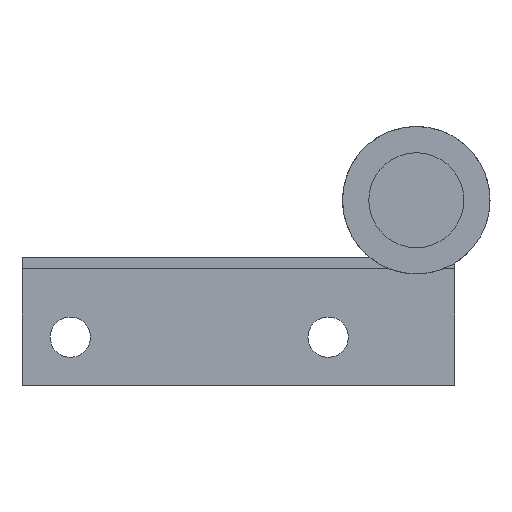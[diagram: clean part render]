
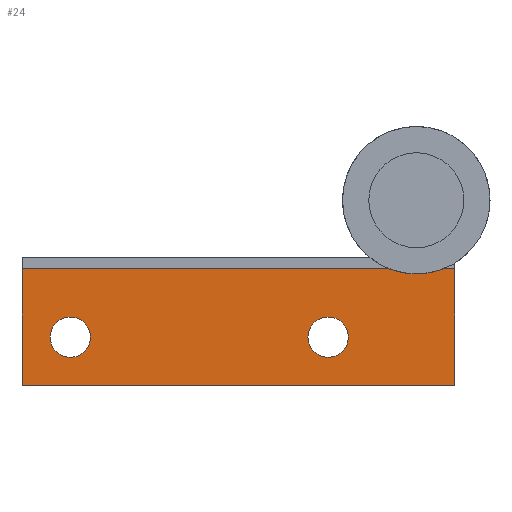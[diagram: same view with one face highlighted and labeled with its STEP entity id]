
A CAD part, front view. The second image highlights one B-rep face of the part: STEP entity #24.
In plain terms, the highlighted planar face has unit normal (0, -1, 0).
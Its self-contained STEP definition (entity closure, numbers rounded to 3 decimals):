
#24 = ADVANCED_FACE ( 'NONE', ( #919, #921, #1063 ), #330, .F. ) ;
#54 = AXIS2_PLACEMENT_3D ( 'NONE', #428, #435, #436 ) ;
#58 = AXIS2_PLACEMENT_3D ( 'NONE', #331, #332, #333 ) ;
#59 = EDGE_CURVE ( 'NONE', #238, #233, #874, .T. ) ;
#88 = EDGE_CURVE ( 'NONE', #208, #213, #731, .T. ) ;
#98 = AXIS2_PLACEMENT_3D ( 'NONE', #581, #572, #574 ) ;
#127 = EDGE_CURVE ( 'NONE', #209, #212, #814, .T. ) ;
#134 = AXIS2_PLACEMENT_3D ( 'NONE', #376, #385, #386 ) ;
#142 = AXIS2_PLACEMENT_3D ( 'NONE', #389, #395, #396 ) ;
#163 = EDGE_CURVE ( 'NONE', #245, #241, #730, .T. ) ;
#171 = EDGE_CURVE ( 'NONE', #233, #238, #696, .T. ) ;
#175 = EDGE_CURVE ( 'NONE', #212, #213, #988, .T. ) ;
#189 = EDGE_CURVE ( 'NONE', #241, #245, #670, .T. ) ;
#195 = EDGE_CURVE ( 'NONE', #209, #208, #678, .T. ) ;
#208 = VERTEX_POINT ( 'NONE', #434 ) ;
#209 = VERTEX_POINT ( 'NONE', #447 ) ;
#212 = VERTEX_POINT ( 'NONE', #449 ) ;
#213 = VERTEX_POINT ( 'NONE', #450 ) ;
#233 = VERTEX_POINT ( 'NONE', #469 ) ;
#238 = VERTEX_POINT ( 'NONE', #474 ) ;
#241 = VERTEX_POINT ( 'NONE', #477 ) ;
#245 = VERTEX_POINT ( 'NONE', #481 ) ;
#330 = PLANE ( 'NONE',  #58 ) ;
#331 = CARTESIAN_POINT ( 'NONE',  ( 9.15, 423.2, -23. ) ) ;
#332 = DIRECTION ( 'NONE',  ( 0., 1., 0. ) ) ;
#333 = DIRECTION ( 'NONE',  ( 1., 0., 0. ) ) ;
#376 = CARTESIAN_POINT ( 'NONE',  ( -42.95, 423.2, -17. ) ) ;
#385 = DIRECTION ( 'NONE',  ( 0., 1., 0. ) ) ;
#386 = DIRECTION ( 'NONE',  ( 1., 0., 0. ) ) ;
#389 = CARTESIAN_POINT ( 'NONE',  ( -10.95, 423.2, -17. ) ) ;
#395 = DIRECTION ( 'NONE',  ( 0., 1., 0. ) ) ;
#396 = DIRECTION ( 'NONE',  ( 1., 0., 0. ) ) ;
#401 = CARTESIAN_POINT ( 'NONE',  ( -48.95, 423.2, -23. ) ) ;
#404 = DIRECTION ( 'NONE',  ( 0., 0., -1. ) ) ;
#428 = CARTESIAN_POINT ( 'NONE',  ( -42.95, 423.2, -17. ) ) ;
#434 = CARTESIAN_POINT ( 'NONE',  ( 4.75, 423.2, -23. ) ) ;
#435 = DIRECTION ( 'NONE',  ( 0., 1., 0. ) ) ;
#436 = DIRECTION ( 'NONE',  ( 1., 0., 0. ) ) ;
#445 = CARTESIAN_POINT ( 'NONE',  ( 4.75, 423.2, -23. ) ) ;
#446 = DIRECTION ( 'NONE',  ( 0., 0., -1. ) ) ;
#447 = CARTESIAN_POINT ( 'NONE',  ( 4.75, 423.2, -8.5 ) ) ;
#449 = CARTESIAN_POINT ( 'NONE',  ( -48.95, 423.2, -8.5 ) ) ;
#450 = CARTESIAN_POINT ( 'NONE',  ( -48.95, 423.2, -23. ) ) ;
#469 = CARTESIAN_POINT ( 'NONE',  ( -13.45, 423.2, -17. ) ) ;
#474 = CARTESIAN_POINT ( 'NONE',  ( -8.45, 423.2, -17. ) ) ;
#477 = CARTESIAN_POINT ( 'NONE',  ( -45.45, 423.2, -17. ) ) ;
#481 = CARTESIAN_POINT ( 'NONE',  ( -40.45, 423.2, -17. ) ) ;
#519 = DIRECTION ( 'NONE',  ( -1., 0., 0. ) ) ;
#572 = DIRECTION ( 'NONE',  ( 0., 1., 0. ) ) ;
#574 = DIRECTION ( 'NONE',  ( 1., 0., 0. ) ) ;
#581 = CARTESIAN_POINT ( 'NONE',  ( -10.95, 423.2, -17. ) ) ;
#597 = DIRECTION ( 'NONE',  ( -1., 0., 0. ) ) ;
#604 = CARTESIAN_POINT ( 'NONE',  ( 9.15, 423.2, -23. ) ) ;
#660 = CARTESIAN_POINT ( 'NONE',  ( 9.15, 423.2, -8.5 ) ) ;
#670 = CIRCLE ( 'NONE', #54, 2.5 ) ;
#672 = VECTOR ( 'NONE', #446, 1000. ) ;
#678 = LINE ( 'NONE', #445, #672 ) ;
#682 = VECTOR ( 'NONE', #404, 1000. ) ;
#696 = CIRCLE ( 'NONE', #142, 2.5 ) ;
#725 = VECTOR ( 'NONE', #597, 1000. ) ;
#730 = CIRCLE ( 'NONE', #134, 2.5 ) ;
#731 = LINE ( 'NONE', #604, #725 ) ;
#803 = ORIENTED_EDGE ( 'NONE', *, *, #175, .T. ) ;
#814 = LINE ( 'NONE', #660, #1069 ) ;
#845 = ORIENTED_EDGE ( 'NONE', *, *, #189, .T. ) ;
#846 = ORIENTED_EDGE ( 'NONE', *, *, #163, .T. ) ;
#847 = ORIENTED_EDGE ( 'NONE', *, *, #127, .T. ) ;
#860 = ORIENTED_EDGE ( 'NONE', *, *, #171, .T. ) ;
#861 = ORIENTED_EDGE ( 'NONE', *, *, #59, .T. ) ;
#874 = CIRCLE ( 'NONE', #98, 2.5 ) ;
#903 = ORIENTED_EDGE ( 'NONE', *, *, #88, .F. ) ;
#904 = ORIENTED_EDGE ( 'NONE', *, *, #195, .F. ) ;
#919 = FACE_BOUND ( 'NONE', #1002, .T. ) ;
#921 = FACE_BOUND ( 'NONE', #1004, .T. ) ;
#988 = LINE ( 'NONE', #401, #682 ) ;
#1002 = EDGE_LOOP ( 'NONE', ( #860, #861 ) ) ;
#1004 = EDGE_LOOP ( 'NONE', ( #845, #846 ) ) ;
#1005 = EDGE_LOOP ( 'NONE', ( #847, #803, #903, #904 ) ) ;
#1063 = FACE_OUTER_BOUND ( 'NONE', #1005, .T. ) ;
#1069 = VECTOR ( 'NONE', #519, 1000. ) ;
